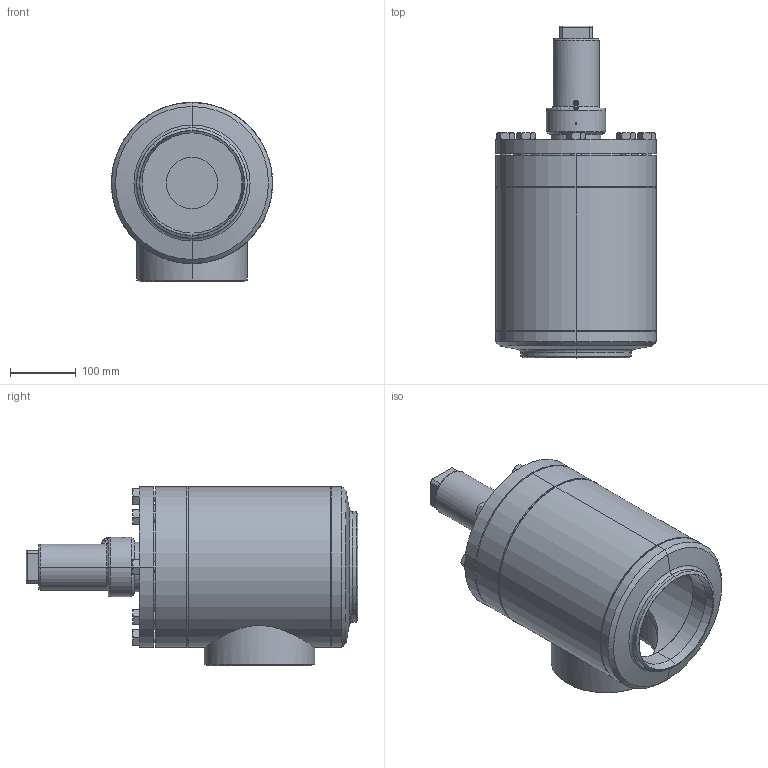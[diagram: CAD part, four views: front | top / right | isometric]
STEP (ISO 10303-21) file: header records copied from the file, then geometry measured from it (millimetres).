
FILE_DESCRIPTION (( 'STEP AP214' ), '1' );
FILE_NAME ('RVA29400D21A5A3AA00_DN150_R1_PS40.STEP', '2010-06-16T11:03:12', ( 'Eckhard Grams' ), ( 'AWP Kälte Klima Armaturen GmbH' ), 'SwSTEP 2.0', 'SolidWorks 2002296', '' );
FILE_SCHEMA (( 'AUTOMOTIVE_DESIGN' ));
Length unit declared in the file: millimetre
Products named in the file (12): RVA29400D21A5A3AA00_DN150_R1_PS40; RVA29300E21_Deck+Schr-DN150_Standard; Deckel29300E21-DN150_Standard; Sechskantschraube-DIN933_M16x 45; Geh,kpl 16300E21-5030AA1_DN150_R1_Standard; Gehäuse16300-DN150_Standard; Kopfstück16300-DN150_Standard; Boden16300-DN150_Standard; Rohrstutzen-A16300a-21_R1_Standard; bead Geh,kpl 16400-21-2_Standard; bead Geh,kpl 16400-21-1_Standard; Kappe 16402-21_DN125-150 (M76x3)_Standard
Assembly tree (18 placements, depth 3):
  RVA29400D21A5A3AA00_DN150_R1_PS40
    RVA29300E21_Deck+Schr-DN150_Standard
      Sechskantschraube-DIN933_M16x 45  x8
      Deckel29300E21-DN150_Standard
    Geh,kpl 16300E21-5030AA1_DN150_R1_Standard
      Gehäuse16300-DN150_Standard
      bead Geh,kpl 16400-21-2_Standard
      Kopfstück16300-DN150_Standard
      Rohrstutzen-A16300a-21_R1_Standard
      bead Geh,kpl 16400-21-1_Standard
      Boden16300-DN150_Standard
    Kappe 16402-21_DN125-150 (M76x3)_Standard
Bounding box: 245.26 x 505 x 272.64 mm (x, y, z)
Volume: 6131932.7 mm3; surface area: 938443.3 mm2
Topology: 16 solids, 16 shells, 376 faces, 807 edges, 479 vertices
Faces by surface type: cone 130, plane 111, cylinder 100, bspline 19, torus 16
Entity records: 12568 total; most frequent: CARTESIAN_POINT 7398, DIRECTION 977, ORIENTED_EDGE 886, EDGE_CURVE 443, AXIS2_PLACEMENT_3D 423, VERTEX_POINT 269, EDGE_LOOP 244, CIRCLE 218
